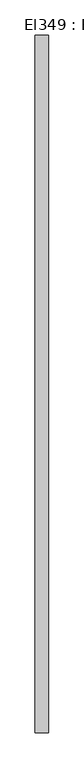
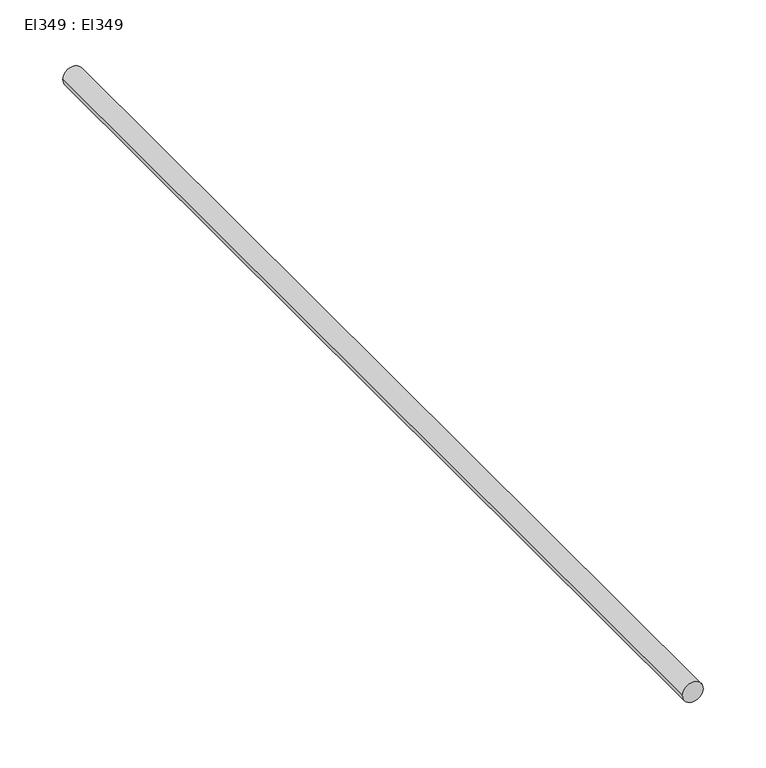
"""IFC4 building model written with IfcOpenShell, lengths in millimetres: cable carrier segment geometry, El349 : El349."""

from ifc_helpers import new_model, si_unit, point, frame, frame_2d, origin, place, context, project, spatial, circle_curve, trimmed, segment, composite_curve, outline, extrude, source, transform, mapped, element, save


def el349_el349_4dde1ad1(model_context):
    return source(origin(), model_context, "Body", "SweptSolid", [
        extrude(outline(composite_curve([segment(trimmed(circle_curve(frame_2d((300.0, 12900.0)), 9.5), [point((300.0, 12890.5))], [point((300.0, 12909.5))], False, "CARTESIAN"), True, "CONTINUOUS"), segment(trimmed(circle_curve(frame_2d((300.0, 12900.0)), 9.5), [point((300.0, 12909.5))], [point((300.0, 12890.5))], False, "CARTESIAN"), True, "CONTINUOUS")], self_intersect=False)), frame((0.0, 9857.035, 0.0), z_axis=(0.0, 1.0, 0.0), x_axis=(0.0, 0.0, 1.0)), (0.0, 0.0, 1.0), 986.531),
    ])


if __name__ == "__main__":
    model = new_model("IFC4")
    model_context = context("Model", 3, world=origin())
    ifc_project = project(units=[si_unit("LENGTHUNIT", "METRE", prefix="MILLI")], contexts=[model_context])
    site = spatial("IfcSite", under=ifc_project)
    building = spatial("IfcBuilding", under=site)
    placement = place(None, origin())
    el349_el349_shape = el349_el349_4dde1ad1(model_context)
    element("IfcCableCarrierSegment", 1, ObjectType="El349 : El349", at=placement, inside=building, context=model_context, shape_type="MappedRepresentation", body=[
        mapped(el349_el349_shape, transform((0.0, 0.0, 0.0), x_axis=(1.0, 0.0, 0.0), y_axis=(0.0, 1.0, 0.0), z_axis=(0.0, 0.0, 1.0))),
    ])
    save(model, "model.ifc")
